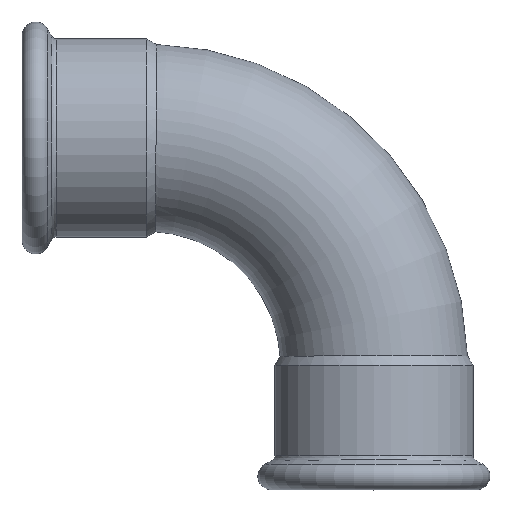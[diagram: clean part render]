
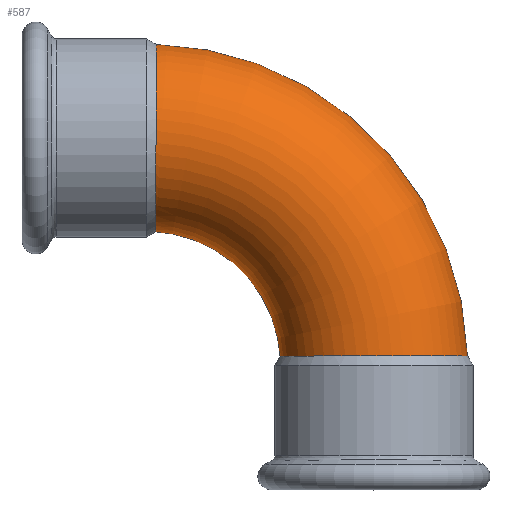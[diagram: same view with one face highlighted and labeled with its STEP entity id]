
A CAD part, top view. The second image highlights one B-rep face of the part: STEP entity #587.
In plain terms, the highlighted toroidal (fillet/blend) face has major radius 92 mm and minor radius 38.05 mm.
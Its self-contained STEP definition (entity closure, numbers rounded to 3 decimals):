
#496=CARTESIAN_POINT('',(0.,-92.,0.0));
#497=DIRECTION('',(0.0,0.0,1.0));
#498=DIRECTION('',(0.725,-0.688,0.0));
#499=AXIS2_PLACEMENT_3D('',#496,#497,#498);
#500=TOROIDAL_SURFACE('',#499,92.,38.05);
#501=CARTESIAN_POINT('',(3.515,38.002,0.));
#502=VERTEX_POINT('',#501);
#503=CARTESIAN_POINT('',(3.515,38.002,0.));
#504=CARTESIAN_POINT('',(3.515,38.002,-4.945));
#505=CARTESIAN_POINT('',(3.514,37.038,-9.843));
#506=CARTESIAN_POINT('',(3.508,33.302,-18.963));
#507=CARTESIAN_POINT('',(3.503,30.578,-23.104));
#508=CARTESIAN_POINT('',(3.49,23.737,-30.092));
#509=CARTESIAN_POINT('',(3.482,19.695,-32.885));
#510=CARTESIAN_POINT('',(3.462,10.822,-36.778));
#511=CARTESIAN_POINT('',(3.45,6.079,-37.859));
#512=CARTESIAN_POINT('',(3.423,-3.534,-38.194));
#513=CARTESIAN_POINT('',(3.408,-8.317,-37.453));
#514=CARTESIAN_POINT('',(3.374,-17.417,-34.215));
#515=CARTESIAN_POINT('',(3.355,-21.644,-31.724));
#516=CARTESIAN_POINT('',(3.319,-29.063,-25.17));
#517=CARTESIAN_POINT('',(3.301,-32.14,-21.119));
#518=CARTESIAN_POINT('',(3.274,-36.376,-12.385));
#519=CARTESIAN_POINT('',(3.266,-37.622,-7.845));
#520=CARTESIAN_POINT('',(3.261,-38.317,0.401));
#521=CARTESIAN_POINT('',(3.262,-38.107,4.021));
#522=CARTESIAN_POINT('',(3.274,-36.386,12.502));
#523=CARTESIAN_POINT('',(3.287,-34.408,17.199));
#524=CARTESIAN_POINT('',(3.319,-28.861,25.358));
#525=CARTESIAN_POINT('',(3.337,-25.419,28.794));
#526=CARTESIAN_POINT('',(3.374,-17.234,34.337));
#527=CARTESIAN_POINT('',(3.393,-12.514,36.313));
#528=CARTESIAN_POINT('',(3.426,-2.602,38.298));
#529=CARTESIAN_POINT('',(3.441,2.489,38.297));
#530=CARTESIAN_POINT('',(3.466,12.374,36.313));
#531=CARTESIAN_POINT('',(3.476,17.07,34.35));
#532=CARTESIAN_POINT('',(3.493,25.43,28.704));
#533=CARTESIAN_POINT('',(3.5,29.009,25.076));
#534=CARTESIAN_POINT('',(3.508,33.787,17.788));
#535=CARTESIAN_POINT('',(3.511,35.344,14.445));
#536=CARTESIAN_POINT('',(3.514,37.462,7.385));
#537=CARTESIAN_POINT('',(3.515,38.002,3.702));
#538=CARTESIAN_POINT('',(3.515,38.002,0.0));
#539=B_SPLINE_CURVE_WITH_KNOTS('',3,(#503,#504,#505,#506,#507,#508,#509,#510,#511,#512,#513,#514,#515,#516,#517,#518,#519,#520,#521,#522,#523,#524,#525,#526,#527,#528,#529,#530,#531,#532,#533,#534,#535,#536,#537,#538),.UNSPECIFIED.,.T.,.U.,(4,2,2,2,2,2,2,2,2,2,2,2,2,2,2,2,2,4),(0.0,1.484,2.957,4.417,5.864,7.303,8.761,10.273,11.673,12.755,14.269,15.715,17.235,18.748,20.26,21.774,22.874,23.985),.UNSPECIFIED.);
#540=EDGE_CURVE('',#502,#502,#539,.T.);
#541=ORIENTED_EDGE('',*,*,#540,.F.);
#542=EDGE_LOOP('',(#541));
#543=FACE_OUTER_BOUND('',#542,.T.);
#544=CARTESIAN_POINT('',(130.002,-88.485,0.0));
#545=VERTEX_POINT('',#544);
#546=CARTESIAN_POINT('',(130.002,-88.485,0.0));
#547=CARTESIAN_POINT('',(130.002,-88.485,4.945));
#548=CARTESIAN_POINT('',(129.038,-88.486,9.843));
#549=CARTESIAN_POINT('',(125.302,-88.492,18.963));
#550=CARTESIAN_POINT('',(122.578,-88.497,23.104));
#551=CARTESIAN_POINT('',(115.737,-88.51,30.092));
#552=CARTESIAN_POINT('',(111.695,-88.518,32.885));
#553=CARTESIAN_POINT('',(102.822,-88.538,36.778));
#554=CARTESIAN_POINT('',(98.079,-88.55,37.859));
#555=CARTESIAN_POINT('',(88.466,-88.577,38.194));
#556=CARTESIAN_POINT('',(83.683,-88.592,37.453));
#557=CARTESIAN_POINT('',(74.583,-88.626,34.215));
#558=CARTESIAN_POINT('',(70.356,-88.645,31.724));
#559=CARTESIAN_POINT('',(62.937,-88.681,25.17));
#560=CARTESIAN_POINT('',(59.86,-88.699,21.119));
#561=CARTESIAN_POINT('',(55.624,-88.726,12.385));
#562=CARTESIAN_POINT('',(54.378,-88.734,7.845));
#563=CARTESIAN_POINT('',(53.683,-88.739,-0.401));
#564=CARTESIAN_POINT('',(53.893,-88.738,-4.021));
#565=CARTESIAN_POINT('',(55.614,-88.726,-12.502));
#566=CARTESIAN_POINT('',(57.592,-88.713,-17.199));
#567=CARTESIAN_POINT('',(63.139,-88.681,-25.358));
#568=CARTESIAN_POINT('',(66.581,-88.663,-28.794));
#569=CARTESIAN_POINT('',(74.766,-88.626,-34.337));
#570=CARTESIAN_POINT('',(79.486,-88.607,-36.313));
#571=CARTESIAN_POINT('',(89.398,-88.574,-38.298));
#572=CARTESIAN_POINT('',(94.489,-88.559,-38.297));
#573=CARTESIAN_POINT('',(104.374,-88.534,-36.313));
#574=CARTESIAN_POINT('',(109.07,-88.524,-34.35));
#575=CARTESIAN_POINT('',(117.43,-88.507,-28.704));
#576=CARTESIAN_POINT('',(121.009,-88.5,-25.076));
#577=CARTESIAN_POINT('',(125.787,-88.492,-17.788));
#578=CARTESIAN_POINT('',(127.344,-88.489,-14.445));
#579=CARTESIAN_POINT('',(129.462,-88.486,-7.385));
#580=CARTESIAN_POINT('',(130.002,-88.485,-3.702));
#581=CARTESIAN_POINT('',(130.002,-88.485,0.));
#582=B_SPLINE_CURVE_WITH_KNOTS('',3,(#546,#547,#548,#549,#550,#551,#552,#553,#554,#555,#556,#557,#558,#559,#560,#561,#562,#563,#564,#565,#566,#567,#568,#569,#570,#571,#572,#573,#574,#575,#576,#577,#578,#579,#580,#581),.UNSPECIFIED.,.T.,.U.,(4,2,2,2,2,2,2,2,2,2,2,2,2,2,2,2,2,4),(0.0,1.484,2.957,4.417,5.864,7.303,8.761,10.273,11.673,12.755,14.269,15.715,17.235,18.748,20.26,21.774,22.874,23.985),.UNSPECIFIED.);
#583=EDGE_CURVE('',#545,#545,#582,.T.);
#584=ORIENTED_EDGE('',*,*,#583,.F.);
#585=EDGE_LOOP('',(#584));
#586=FACE_BOUND('',#585,.T.);
#587=ADVANCED_FACE('',(#543,#586),#500,.T.);
